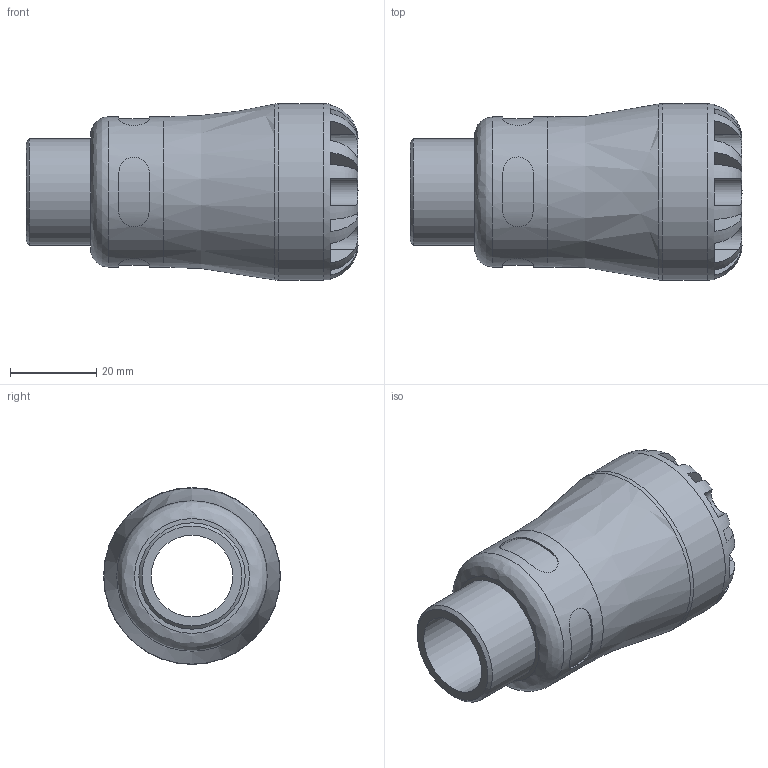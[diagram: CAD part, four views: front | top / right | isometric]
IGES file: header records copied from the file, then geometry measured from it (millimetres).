
Global section: file name: 107200020007_197200020007.ipt; native system: Autodesk Inventor 2015; preprocessor: unknown; author: KIM; date: 20170122.104919; units: millimetre
Bounding box: 77 x 41 x 41 mm (x, y, z)
Volume: 48772.9 mm3; surface area: 15479 mm2
Topology: 1 solids, 1 shells, 99 faces, 255 edges, 163 vertices
Faces by surface type: plane 60, revolution 23, cylinder 15, cone 1
Full cylindrical faces by diameter (mm): 24.658 x1, 34.85 x1, 41 x1
